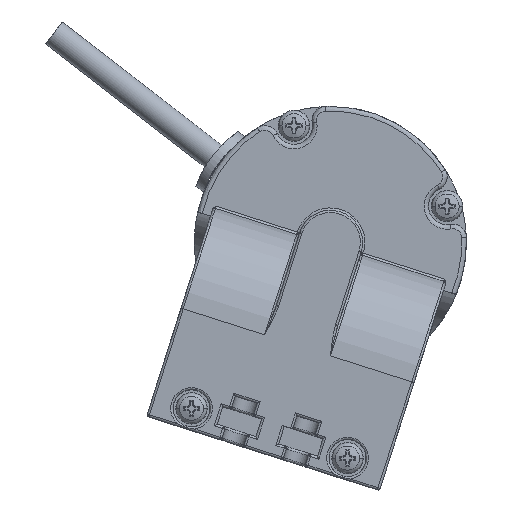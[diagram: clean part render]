
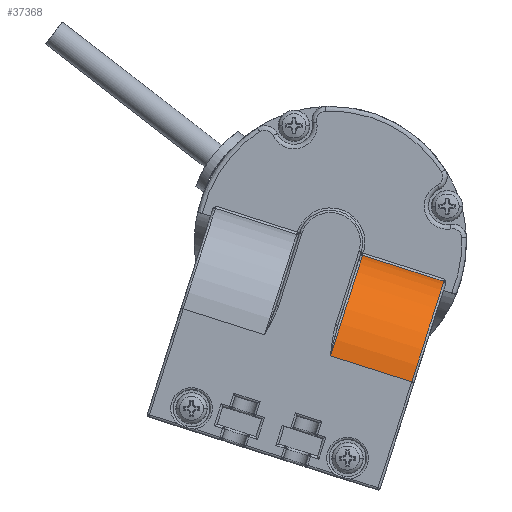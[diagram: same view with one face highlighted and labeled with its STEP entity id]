
A CAD part, front view. The second image highlights one B-rep face of the part: STEP entity #37368.
In plain terms, the highlighted cylindrical face has radius 23 mm (diameter 46 mm), a partial arc.
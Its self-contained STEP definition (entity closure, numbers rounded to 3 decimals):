
#1205 = ORIENTED_EDGE ( 'NONE', *, *, #48518, .T. ) ;
#2845 = LINE ( 'NONE', #28217, #49569 ) ;
#3014 = DIRECTION ( 'NONE',  ( 0.304, 0., 0.953 ) ) ;
#4681 = VERTEX_POINT ( 'NONE', #23869 ) ;
#4692 = VERTEX_POINT ( 'NONE', #54154 ) ;
#4983 = ORIENTED_EDGE ( 'NONE', *, *, #50333, .T. ) ;
#8736 = VERTEX_POINT ( 'NONE', #55488 ) ;
#11950 = LINE ( 'NONE', #46072, #57605 ) ;
#15674 = FACE_OUTER_BOUND ( 'NONE', #49863, .T. ) ;
#18936 = CARTESIAN_POINT ( 'NONE',  ( 36.484, 16.753, -32.309 ) ) ;
#22911 = CARTESIAN_POINT ( 'NONE',  ( 29.534, 19.2, -54.097 ) ) ;
#23592 = DIRECTION ( 'NONE',  ( -0.953, 0., 0.304 ) ) ;
#23869 = CARTESIAN_POINT ( 'NONE',  ( 47.158, -3.8, -59.719 ) ) ;
#24021 = AXIS2_PLACEMENT_3D ( 'NONE', #50913, #23592, #3014 ) ;
#28095 = DIRECTION ( 'NONE',  ( 0.953, 0., -0.304 ) ) ;
#28217 = CARTESIAN_POINT ( 'NONE',  ( 36.132, 16.753, -32.197 ) ) ;
#30758 = DIRECTION ( 'NONE',  ( 0.304, 0., 0.953 ) ) ;
#31353 = CYLINDRICAL_SURFACE ( 'NONE', #24021, 23. ) ;
#33046 = DIRECTION ( 'NONE',  ( -0.205, 0.738, -0.643 ) ) ;
#37368 = ADVANCED_FACE ( 'NONE', ( #15674 ), #31353, .T. ) ;
#38724 = ORIENTED_EDGE ( 'NONE', *, *, #57073, .F. ) ;
#40351 = VERTEX_POINT ( 'NONE', #18936 ) ;
#41986 = CIRCLE ( 'NONE', #57264, 23. ) ;
#46072 = CARTESIAN_POINT ( 'NONE',  ( 29.534, -3.8, -54.097 ) ) ;
#46473 = ORIENTED_EDGE ( 'NONE', *, *, #51765, .T. ) ;
#48036 = DIRECTION ( 'NONE',  ( 0.953, 0., -0.304 ) ) ;
#48518 = EDGE_CURVE ( 'NONE', #40351, #4692, #41986, .T. ) ;
#49207 = DIRECTION ( 'NONE',  ( 0.953, 0., -0.304 ) ) ;
#49569 = VECTOR ( 'NONE', #51616, 1000. ) ;
#49863 = EDGE_LOOP ( 'NONE', ( #38724, #4983, #1205, #46473 ) ) ;
#50333 = EDGE_CURVE ( 'NONE', #8736, #40351, #2845, .T. ) ;
#50913 = CARTESIAN_POINT ( 'NONE',  ( 48.149, 19.2, -60.035 ) ) ;
#51616 = DIRECTION ( 'NONE',  ( -0.953, 0., 0.304 ) ) ;
#51765 = EDGE_CURVE ( 'NONE', #4692, #4681, #11950, .T. ) ;
#53144 = CIRCLE ( 'NONE', #54247, 23. ) ;
#54154 = CARTESIAN_POINT ( 'NONE',  ( 29.534, -3.8, -54.097 ) ) ;
#54247 = AXIS2_PLACEMENT_3D ( 'NONE', #57416, #28095, #33046 ) ;
#55488 = CARTESIAN_POINT ( 'NONE',  ( 54.109, 16.753, -37.932 ) ) ;
#57073 = EDGE_CURVE ( 'NONE', #8736, #4681, #53144, .T. ) ;
#57264 = AXIS2_PLACEMENT_3D ( 'NONE', #22911, #49207, #30758 ) ;
#57416 = CARTESIAN_POINT ( 'NONE',  ( 47.158, 19.2, -59.719 ) ) ;
#57605 = VECTOR ( 'NONE', #48036, 1000. ) ;
